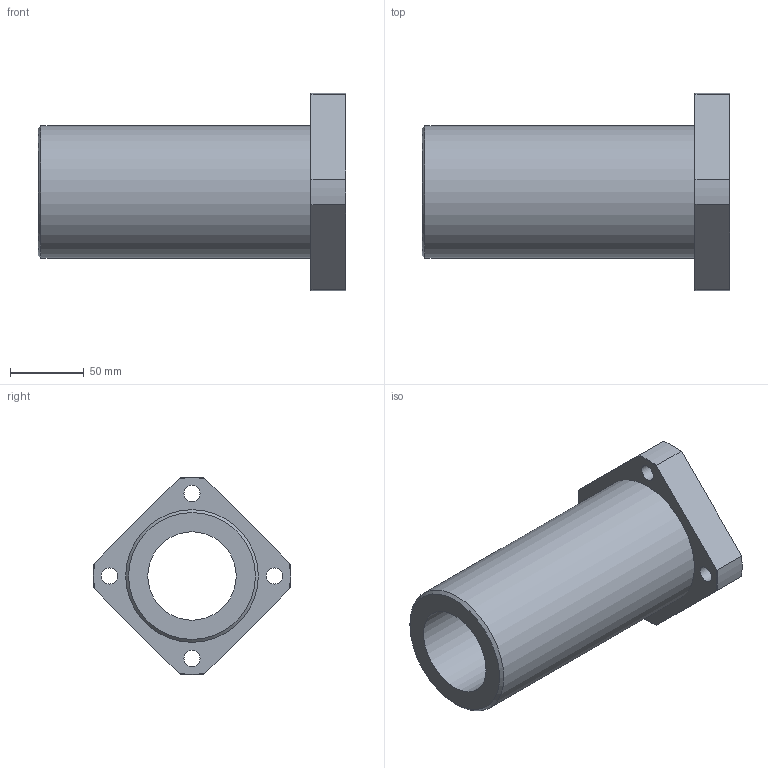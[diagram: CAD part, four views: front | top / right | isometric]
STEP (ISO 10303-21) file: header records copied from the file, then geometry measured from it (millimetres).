
FILE_DESCRIPTION(('STEP AP203'),'1');
FILE_NAME('//192.168.1.1/share/s-4 技術開発/s-4-4_CAD/s-4-4-3_見直し済み/PBC LINEAR修正済み/DFPJ/DFPJ_TOP/DFPJ/DFPJ60.step','2022-03-24T05:07:30',(' '),(' '),'Spatial InterOp 3D',' ',' ');
FILE_SCHEMA(('CONFIG_CONTROL_DESIGN'));
Length unit declared in the file: millimetre
Products named in the file (1): 1
Bounding box: 209 x 133.88 x 133.88 mm (x, y, z)
Volume: 833768.6 mm3; surface area: 120533.8 mm2
Topology: 1 solids, 1 shells, 34 faces, 85 edges, 58 vertices
Faces by surface type: cylinder 14, plane 11, cone 9
Full cylindrical faces by diameter (mm): 11 x4, 17 x4, 60 x1, 90 x1
Entity records: 1018 total; most frequent: CARTESIAN_POINT 205, DIRECTION 160, ORIENTED_EDGE 138, AXIS2_PLACEMENT_3D 72, EDGE_CURVE 69, EDGE_LOOP 60, VERTEX_POINT 53, FACE_OUTER_BOUND 44
